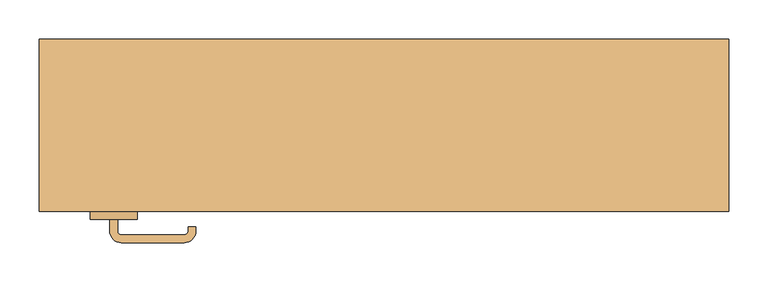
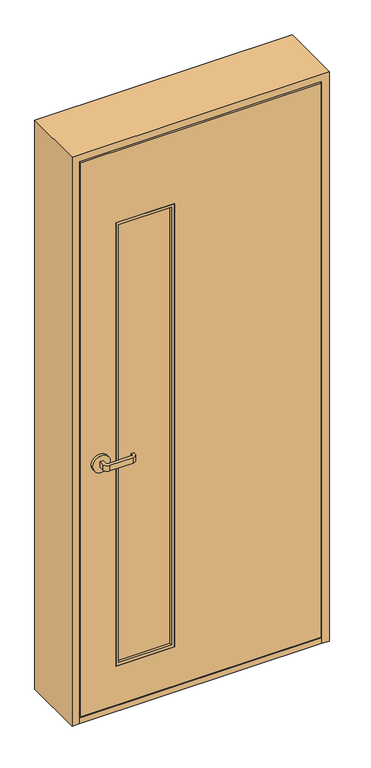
"""IFC4 building model written with IfcOpenShell, lengths in millimetres: door geometry, 140_片開扉_スリットガラリ付 : SD3_H2000W800."""

from ifc_helpers import new_model, si_unit, point, frame, frame_2d, origin, place, context, project, spatial, polyline, circle_curve, trimmed, segment, composite_curve, outline, extrude, faceted_brep, source, transform, mapped, element, save


def door_bff3f04c(model_context):
    return source(origin(), model_context, "Body", "SolidModel", [
        extrude(outline(composite_curve([segment(polyline([(-350.0, -60.0), (-350.0, -45.0)]), True, "CONTINUOUS"), segment(trimmed(circle_curve(frame_2d((-335.0, -45.0)), 15.0), [point((-350.0, -45.0))], [point((-335.0, -30.0))], False, "CARTESIAN"), True, "CONTINUOUS"), segment(polyline([(-335.0, -30.0), (-255.0, -30.0)]), True, "CONTINUOUS"), segment(trimmed(circle_curve(frame_2d((-255.0, -45.0)), 15.0), [point((-255.0, -30.0))], [point((-240.0, -45.0))], False, "CARTESIAN"), True, "CONTINUOUS"), segment(polyline([(-240.0, -45.0), (-240.0, -50.0), (-250.0, -50.0), (-250.0, -45.0)]), True, "CONTINUOUS"), segment(trimmed(circle_curve(frame_2d((-255.0, -45.0)), 5.0), [point((-250.0, -45.0))], [point((-255.0, -40.0))], True, "CARTESIAN"), True, "CONTINUOUS"), segment(polyline([(-255.0, -40.0), (-335.0, -40.0)]), True, "CONTINUOUS"), segment(trimmed(circle_curve(frame_2d((-335.0, -45.0)), 5.0), [point((-335.0, -40.0))], [point((-340.0, -45.0))], True, "CARTESIAN"), True, "CONTINUOUS"), segment(polyline([(-340.0, -45.0), (-340.0, -60.0), (-350.0, -60.0)]), True, "CONTINUOUS")], self_intersect=False)), frame((0.0, 0.0, 895.0), z_axis=(0.0, 0.0, 1.0), x_axis=(1.0, 0.0, 0.0)), (0.0, 0.0, 1.0), 20.0),
        extrude(outline(composite_curve([segment(trimmed(circle_curve(frame_2d((905.0, -345.0)), 30.0), [point((905.0, -375.0))], [point((905.0, -315.0))], False, "CARTESIAN"), True, "CONTINUOUS"), segment(trimmed(circle_curve(frame_2d((905.0, -345.0)), 30.0), [point((905.0, -315.0))], [point((905.0, -375.0))], False, "CARTESIAN"), True, "CONTINUOUS")], self_intersect=False)), frame((0.0, -70.0, 0.0), z_axis=(0.0, 1.0, 0.0), x_axis=(0.0, 0.0, 1.0)), (0.0, 0.0, 1.0), 10.0),
        extrude(outline(composite_curve([segment(polyline([(-340.0, -120.0), (-340.0, -135.0)]), True, "CONTINUOUS"), segment(trimmed(circle_curve(frame_2d((-335.0, -135.0)), 5.0), [point((-340.0, -135.0))], [point((-335.0, -140.0))], True, "CARTESIAN"), True, "CONTINUOUS"), segment(polyline([(-335.0, -140.0), (-255.0, -140.0)]), True, "CONTINUOUS"), segment(trimmed(circle_curve(frame_2d((-255.0, -135.0)), 5.0), [point((-255.0, -140.0))], [point((-250.0, -135.0))], True, "CARTESIAN"), True, "CONTINUOUS"), segment(polyline([(-250.0, -135.0), (-250.0, -130.0), (-240.0, -130.0), (-240.0, -135.0)]), True, "CONTINUOUS"), segment(trimmed(circle_curve(frame_2d((-255.0, -135.0)), 15.0), [point((-240.0, -135.0))], [point((-255.0, -150.0))], False, "CARTESIAN"), True, "CONTINUOUS"), segment(polyline([(-255.0, -150.0), (-335.0, -150.0)]), True, "CONTINUOUS"), segment(trimmed(circle_curve(frame_2d((-335.0, -135.0)), 15.0), [point((-335.0, -150.0))], [point((-350.0, -135.0))], False, "CARTESIAN"), True, "CONTINUOUS"), segment(polyline([(-350.0, -135.0), (-350.0, -120.0), (-340.0, -120.0)]), True, "CONTINUOUS")], self_intersect=False)), frame((0.0, 0.0, 895.0), z_axis=(0.0, 0.0, 1.0), x_axis=(1.0, 0.0, 0.0)), (0.0, 0.0, 1.0), 20.0),
        extrude(outline(composite_curve([segment(trimmed(circle_curve(frame_2d((905.0, -345.0)), 30.0), [point((905.0, -375.0))], [point((905.0, -315.0))], False, "CARTESIAN"), True, "CONTINUOUS"), segment(trimmed(circle_curve(frame_2d((905.0, -345.0)), 30.0), [point((905.0, -315.0))], [point((905.0, -375.0))], False, "CARTESIAN"), True, "CONTINUOUS")], self_intersect=False)), frame((0.0, -120.0, 0.0), z_axis=(0.0, 1.0, 0.0), x_axis=(0.0, 0.0, 1.0)), (0.0, 0.0, 1.0), 10.0),
        extrude(outline(polyline([(-100.0, -100.0), (-280.0, -100.0), (-280.0, -80.0), (-100.0, -80.0), (-100.0, -100.0)])), frame((0.0, 0.0, 160.0), z_axis=(0.0, 0.0, 1.0), x_axis=(1.0, 0.0, 0.0)), (0.0, 0.0, 1.0), 1580.0),
        extrude(outline(polyline([(150.0, -90.0), (1750.0, -90.0), (1750.0, -290.0), (150.0, -290.0), (150.0, -90.0)]), holes=[polyline([(160.0, -100.0), (160.0, -280.0), (1740.0, -280.0), (1740.0, -100.0), (160.0, -100.0)])]), frame((0.0, -110.0, 0.0), z_axis=(0.0, 1.0, 0.0), x_axis=(0.0, 0.0, 1.0)), (0.0, 0.0, 1.0), 40.0),
        extrude(outline(polyline([(10.0, 410.0), (2010.0, 410.0), (2010.0, -410.0), (10.0, -410.0), (10.0, 410.0)]), holes=[polyline([(150.0, -90.0), (150.0, -290.0), (1750.0, -290.0), (1750.0, -90.0), (150.0, -90.0)])]), frame((0.0, -110.0, 0.0), z_axis=(0.0, 1.0, 0.0), x_axis=(0.0, 0.0, 1.0)), (0.0, 0.0, 1.0), 40.0),
        faceted_brep([(-415.0, -110.0, -15.0), (-440.0, -110.0, -15.0), (-440.0, 110.0, -15.0), (-415.0, 110.0, -15.0), (-415.0, -40.0, -15.0), (-400.0, -40.0, -15.0), (-400.0, -70.0, -15.0), (-415.0, -70.0, -15.0), (-415.0, -70.0, 2015.0), (-415.0, -110.0, 2015.0), (-400.0, -70.0, 2000.0), (400.0, -70.0, 2000.0), (400.0, -70.0, -15.0), (415.0, -70.0, -15.0), (415.0, -70.0, 2015.0), (-400.0, -40.0, 2000.0), (-415.0, -40.0, 2015.0), (415.0, -40.0, 2015.0), (415.0, -40.0, -15.0), (400.0, -40.0, -15.0), (400.0, -40.0, 2000.0), (-415.0, 110.0, 2015.0), (-440.0, 110.0, 2040.0), (440.0, 110.0, 2040.0), (440.0, 110.0, -15.0), (415.0, 110.0, -15.0), (415.0, 110.0, 2015.0), (-440.0, -110.0, 2040.0), (415.0, -110.0, 2015.0), (415.0, -110.0, -15.0), (440.0, -110.0, -15.0), (440.0, -110.0, 2040.0)], [[[0, 1, 2, 3, 4, 5, 6, 7]], [[7, 8, 9, 0]], [[6, 10, 11, 12, 13, 14, 8, 7]], [[5, 15, 10, 6]], [[4, 16, 17, 18, 19, 20, 15, 5]], [[3, 21, 16, 4]], [[2, 22, 23, 24, 25, 26, 21, 3]], [[1, 27, 22, 2]], [[0, 9, 28, 29, 30, 31, 27, 1]], [[8, 14, 28, 9]], [[15, 20, 11, 10]], [[21, 26, 17, 16]], [[27, 31, 23, 22]], [[29, 13, 12, 19, 18, 25, 24, 30]], [[14, 13, 29, 28]], [[20, 19, 12, 11]], [[26, 25, 18, 17]], [[31, 30, 24, 23]]]),
        extrude(outline(polyline([(-110.0, 5.0), (-70.0, 5.0), (-70.0, 15.0), (-40.0, 15.0), (60.0, 5.0), (60.0, -15.0), (-110.0, -15.0), (-110.0, 5.0)])), frame((-415.0, 0.0, 0.0), z_axis=(1.0, 0.0, 0.0), x_axis=(0.0, 1.0, 0.0)), (0.0, 0.0, 1.0), 830.0),
    ])


if __name__ == "__main__":
    model = new_model("IFC4")
    model_context = context("Model", 3, world=origin())
    ifc_project = project(units=[si_unit("LENGTHUNIT", "METRE", prefix="MILLI")], contexts=[model_context])
    site = spatial("IfcSite", under=ifc_project)
    building = spatial("IfcBuilding", under=site)
    placement = place(None, origin())
    door_shape = door_bff3f04c(model_context)
    element("IfcDoor", 1, ObjectType="140_片開扉_スリットガラリ付 : SD3_H2000W800", at=placement, inside=building, context=model_context, shape_type="MappedRepresentation", body=[
        mapped(door_shape, transform((0.0, 0.0, 0.0), x_axis=(1.0, 0.0, 0.0), y_axis=(0.0, 1.0, 0.0), z_axis=(0.0, 0.0, 1.0))),
    ])
    save(model, "model.ifc")
